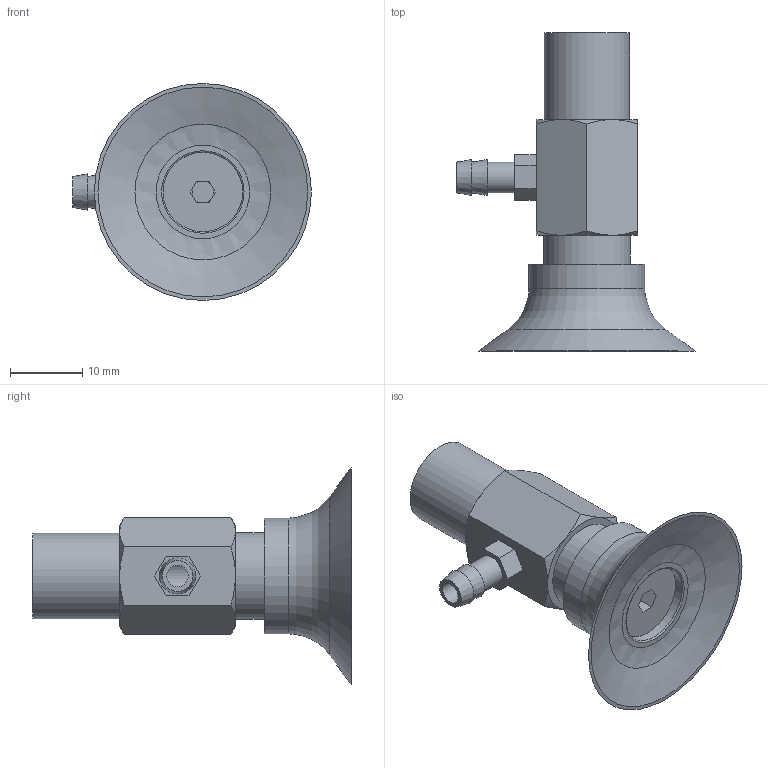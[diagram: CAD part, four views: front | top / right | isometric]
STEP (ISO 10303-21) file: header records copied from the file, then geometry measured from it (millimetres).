
FILE_DESCRIPTION(('STEP AP203'),'1');
FILE_NAME('.stp','2025-04-07T02:15:59',(' '),(' '),'Spatial InterOp 3D',' ',' ');
FILE_SCHEMA(('CONFIG_CONTROL_DESIGN'));
Length unit declared in the file: millimetre
Products named in the file (4): BBPFYK-30-※; TN-PF-30-M6-1; PFYK-25; BPFG-30-※
Assembly tree (3 placements, depth 2):
  BBPFYK-30-※
    TN-PF-30-M6-1
    PFYK-25
    BPFG-30-※
Bounding box: 33 x 44 x 30 mm (x, y, z)
Volume: 6883.9 mm3; surface area: 5126.3 mm2
Topology: 3 solids, 3 shells, 83 faces, 170 edges, 103 vertices
Faces by surface type: plane 43, cone 21, cylinder 13, torus 5, bspline 1
Full cylindrical faces by diameter (mm): 3 x2, 4.26 x1, 4.917 x2, 5 x1, 6 x2, 11 x2, 11.8 x1, 12 x1, 16 x1
Entity records: 2471 total; most frequent: CARTESIAN_POINT 659, DIRECTION 344, ORIENTED_EDGE 274, AXIS2_PLACEMENT_3D 147, EDGE_CURVE 137, EDGE_LOOP 128, FACE_OUTER_BOUND 102, VERTEX_POINT 100
